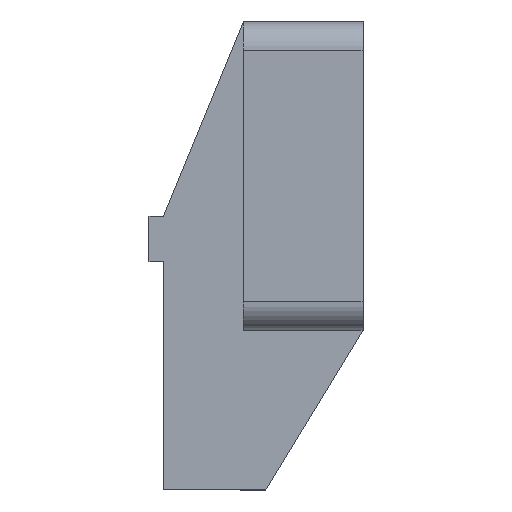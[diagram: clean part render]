
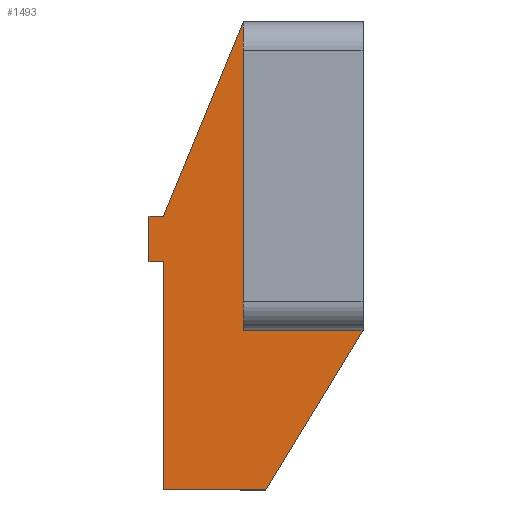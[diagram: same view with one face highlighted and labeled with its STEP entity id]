
A CAD part, left-side view. The second image highlights one B-rep face of the part: STEP entity #1493.
In plain terms, the highlighted planar face has unit normal (-1, 0, 0).
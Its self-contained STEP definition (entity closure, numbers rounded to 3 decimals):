
#10 = VERTEX_POINT ( 'NONE', #628 ) ;
#37 = EDGE_CURVE ( 'NONE', #627, #1265, #960, .T. ) ;
#40 = VECTOR ( 'NONE', #1494, 1000. ) ;
#51 = DIRECTION ( 'NONE',  ( -1., 0., 0. ) ) ;
#92 = DIRECTION ( 'NONE',  ( 0., -1., 0. ) ) ;
#108 = ORIENTED_EDGE ( 'NONE', *, *, #631, .T. ) ;
#116 = CARTESIAN_POINT ( 'NONE',  ( -85., 35., -15. ) ) ;
#137 = LINE ( 'NONE', #1021, #1339 ) ;
#146 = ORIENTED_EDGE ( 'NONE', *, *, #679, .T. ) ;
#152 = VERTEX_POINT ( 'NONE', #540 ) ;
#173 = CARTESIAN_POINT ( 'NONE',  ( -85., 35., -55. ) ) ;
#195 = VECTOR ( 'NONE', #214, 1000. ) ;
#214 = DIRECTION ( 'NONE',  ( 0., 1., 0. ) ) ;
#222 = EDGE_CURVE ( 'NONE', #1063, #627, #436, .T. ) ;
#237 = CARTESIAN_POINT ( 'NONE',  ( -85., 21., -27. ) ) ;
#266 = EDGE_CURVE ( 'NONE', #1491, #1358, #984, .T. ) ;
#273 = ORIENTED_EDGE ( 'NONE', *, *, #266, .T. ) ;
#358 = CARTESIAN_POINT ( 'NONE',  ( -85., 16.476, 37.988 ) ) ;
#414 = VECTOR ( 'NONE', #1201, 1000. ) ;
#425 = CARTESIAN_POINT ( 'NONE',  ( -85., 17., -55. ) ) ;
#436 = LINE ( 'NONE', #670, #195 ) ;
#469 = VECTOR ( 'NONE', #920, 1000. ) ;
#491 = FACE_OUTER_BOUND ( 'NONE', #1048, .T. ) ;
#497 = CARTESIAN_POINT ( 'NONE',  ( -85., 0., -27. ) ) ;
#524 = LINE ( 'NONE', #759, #1130 ) ;
#529 = CARTESIAN_POINT ( 'NONE',  ( -85., 35., 22. ) ) ;
#535 = DIRECTION ( 'NONE',  ( 0., -0.519, 0.855 ) ) ;
#538 = AXIS2_PLACEMENT_3D ( 'NONE', #851, #51, #1343 ) ;
#540 = CARTESIAN_POINT ( 'NONE',  ( -85., 37.5, -15. ) ) ;
#571 = VERTEX_POINT ( 'NONE', #497 ) ;
#580 = EDGE_CURVE ( 'NONE', #10, #152, #1124, .T. ) ;
#595 = VECTOR ( 'NONE', #919, 1000. ) ;
#621 = DIRECTION ( 'NONE',  ( 0., 0., -1. ) ) ;
#622 = DIRECTION ( 'NONE',  ( 0., 0., 1. ) ) ;
#627 = VERTEX_POINT ( 'NONE', #173 ) ;
#628 = CARTESIAN_POINT ( 'NONE',  ( -85., 37.5, -7. ) ) ;
#631 = EDGE_CURVE ( 'NONE', #1285, #1491, #852, .T. ) ;
#638 = CARTESIAN_POINT ( 'NONE',  ( -85., 21., 27. ) ) ;
#670 = CARTESIAN_POINT ( 'NONE',  ( -85., 35., -55. ) ) ;
#679 = EDGE_CURVE ( 'NONE', #1063, #571, #524, .T. ) ;
#759 = CARTESIAN_POINT ( 'NONE',  ( -85., -24., 12.529 ) ) ;
#821 = ORIENTED_EDGE ( 'NONE', *, *, #580, .T. ) ;
#851 = CARTESIAN_POINT ( 'NONE',  ( -85., 21., 39.851 ) ) ;
#852 = LINE ( 'NONE', #861, #414 ) ;
#853 = LINE ( 'NONE', #1171, #595 ) ;
#861 = CARTESIAN_POINT ( 'NONE',  ( -85., 21., 39.851 ) ) ;
#919 = DIRECTION ( 'NONE',  ( 0., 1., 0. ) ) ;
#920 = DIRECTION ( 'NONE',  ( 0., 0.381, -0.925 ) ) ;
#960 = LINE ( 'NONE', #529, #1089 ) ;
#973 = PLANE ( 'NONE',  #538 ) ;
#981 = ORIENTED_EDGE ( 'NONE', *, *, #37, .F. ) ;
#984 = LINE ( 'NONE', #358, #469 ) ;
#992 = ORIENTED_EDGE ( 'NONE', *, *, #1298, .T. ) ;
#1021 = CARTESIAN_POINT ( 'NONE',  ( -85., 35., -15. ) ) ;
#1048 = EDGE_LOOP ( 'NONE', ( #108, #273, #1154, #821, #1209, #981, #1085, #146, #992 ) ) ;
#1063 = VERTEX_POINT ( 'NONE', #425 ) ;
#1085 = ORIENTED_EDGE ( 'NONE', *, *, #222, .F. ) ;
#1089 = VECTOR ( 'NONE', #622, 1000. ) ;
#1124 = LINE ( 'NONE', #1197, #1226 ) ;
#1130 = VECTOR ( 'NONE', #535, 1000. ) ;
#1154 = ORIENTED_EDGE ( 'NONE', *, *, #1248, .T. ) ;
#1164 = EDGE_CURVE ( 'NONE', #152, #1265, #137, .T. ) ;
#1171 = CARTESIAN_POINT ( 'NONE',  ( -85., 35., -27. ) ) ;
#1197 = CARTESIAN_POINT ( 'NONE',  ( -85., 37.5, -7. ) ) ;
#1201 = DIRECTION ( 'NONE',  ( 0., 0., 1. ) ) ;
#1209 = ORIENTED_EDGE ( 'NONE', *, *, #1164, .T. ) ;
#1226 = VECTOR ( 'NONE', #621, 1000. ) ;
#1248 = EDGE_CURVE ( 'NONE', #1358, #10, #1401, .T. ) ;
#1265 = VERTEX_POINT ( 'NONE', #116 ) ;
#1285 = VERTEX_POINT ( 'NONE', #237 ) ;
#1298 = EDGE_CURVE ( 'NONE', #571, #1285, #853, .T. ) ;
#1339 = VECTOR ( 'NONE', #92, 1000. ) ;
#1343 = DIRECTION ( 'NONE',  ( 0., 0., 1. ) ) ;
#1358 = VERTEX_POINT ( 'NONE', #1399 ) ;
#1399 = CARTESIAN_POINT ( 'NONE',  ( -85., 35., -7. ) ) ;
#1401 = LINE ( 'NONE', #1487, #40 ) ;
#1487 = CARTESIAN_POINT ( 'NONE',  ( -85., 35., -7. ) ) ;
#1491 = VERTEX_POINT ( 'NONE', #638 ) ;
#1493 = ADVANCED_FACE ( 'NONE', ( #491 ), #973, .T. ) ;
#1494 = DIRECTION ( 'NONE',  ( 0., 1., 0. ) ) ;
